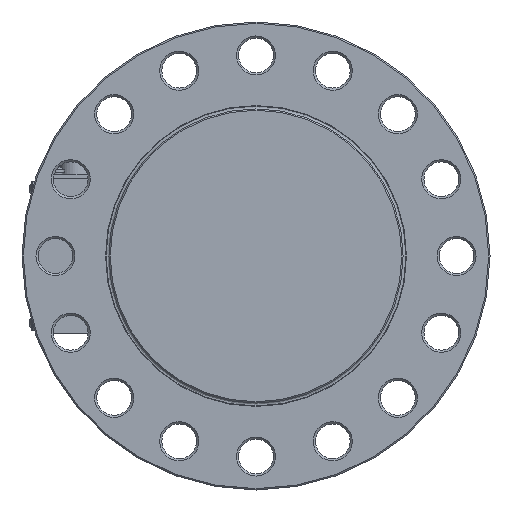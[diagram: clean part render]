
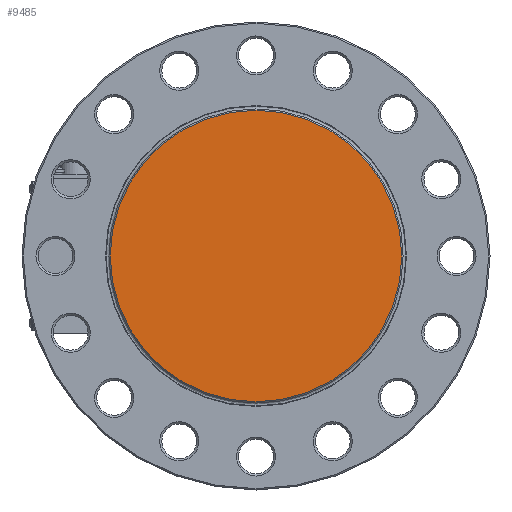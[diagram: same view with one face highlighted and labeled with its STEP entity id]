
A CAD part, left-side view. The second image highlights one B-rep face of the part: STEP entity #9485.
In plain terms, the highlighted planar face has unit normal (-1, 0, 0).
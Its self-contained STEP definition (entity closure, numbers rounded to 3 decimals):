
#914 = DIRECTION ( 'NONE',  ( 0., 0., -1. ) ) ;
#4307 = DIRECTION ( 'NONE',  ( 0., 0., 1. ) ) ;
#4406 = AXIS2_PLACEMENT_3D ( 'NONE', #9209, #13858, #914 ) ;
#5365 = ORIENTED_EDGE ( 'NONE', *, *, #10604, .F. ) ;
#6027 = DIRECTION ( 'NONE',  ( -1., 0., 0. ) ) ;
#6329 = EDGE_LOOP ( 'NONE', ( #5365 ) ) ;
#7356 = VERTEX_POINT ( 'NONE', #12450 ) ;
#9209 = CARTESIAN_POINT ( 'NONE',  ( -72., 0., 0. ) ) ;
#9294 = PLANE ( 'NONE',  #12876 ) ;
#9485 = ADVANCED_FACE ( 'NONE', ( #20439 ), #9294, .T. ) ;
#10604 = EDGE_CURVE ( 'NONE', #7356, #7356, #14443, .T. ) ;
#12450 = CARTESIAN_POINT ( 'NONE',  ( -72., 0., -54.5 ) ) ;
#12876 = AXIS2_PLACEMENT_3D ( 'NONE', #20770, #6027, #4307 ) ;
#13858 = DIRECTION ( 'NONE',  ( 1., 0., 0. ) ) ;
#14443 = CIRCLE ( 'NONE', #4406, 54.5 ) ;
#20439 = FACE_OUTER_BOUND ( 'NONE', #6329, .T. ) ;
#20770 = CARTESIAN_POINT ( 'NONE',  ( -72., 34., 0. ) ) ;
